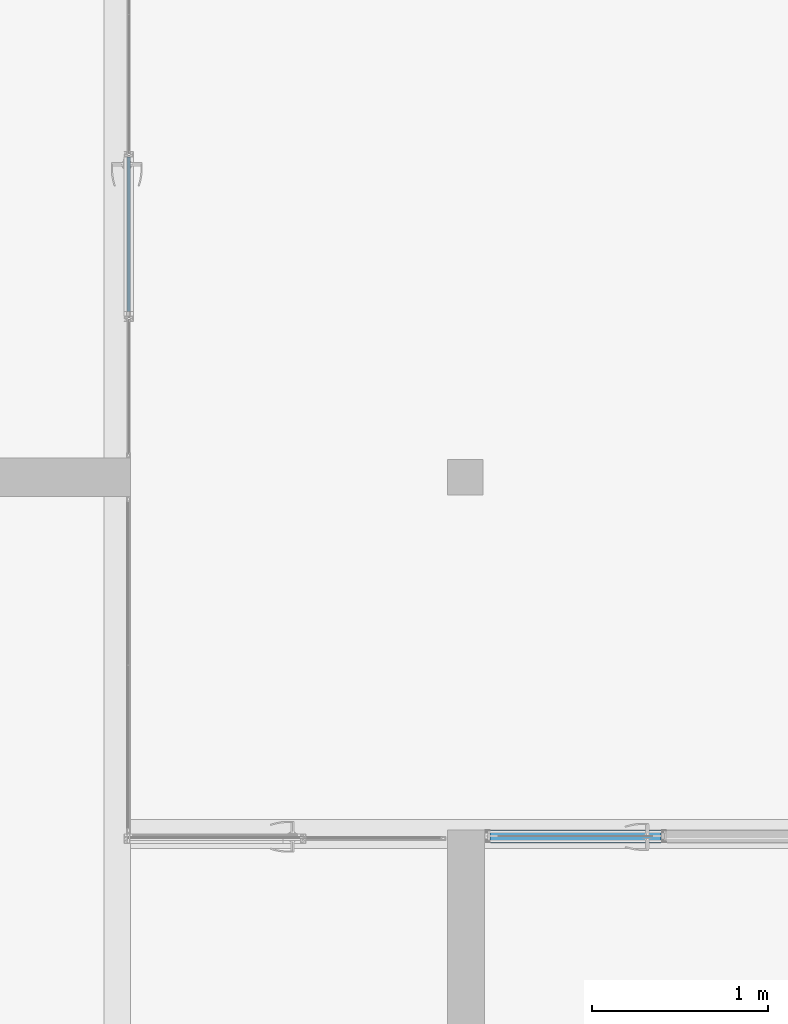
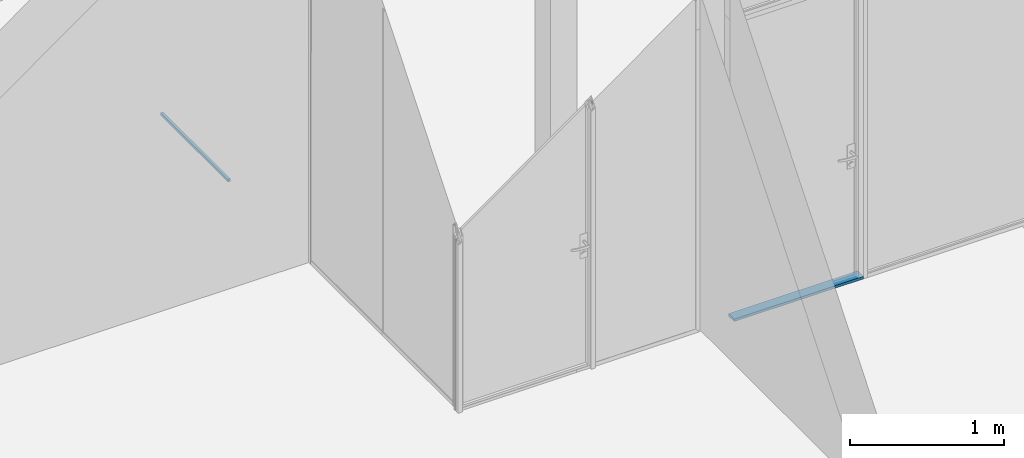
# One storey, part 16 of 387: 2 members, 2 elements without a shape of their own.
"""IFC2X3 building model written with IfcOpenShell, lengths in millimetres."""

import ifcopenshell
import ifcopenshell.guid

model = None  # the IFC model being written
_history = None  # IfcOwnerHistory: only IFC2X3 demands one
_inside = {}  # id of a spatial element -> (the spatial element, [elements in it])
_under = {}  # id of a project, library or spatial element -> (it, [spatial elements below it])
_declared = {}  # id of a project -> (the project, [libraries it declares])
_typed = {}  # id of a type object -> (the type object, [elements of that type])
_made_of = {}  # id of a material, layer set ... -> (it, [elements and type objects made of it])


def new_model(schema):
    """Start an empty IFC model of exactly this schema.

    Asked for "IFC4X3", IfcOpenShell would pick the latest addendum, in which some entities
    have other attributes; the version numbers below select the first issue.
    IFC2X3 requires an IfcOwnerHistory on every rooted entity: one is made here for all.
    """
    global model, _history
    if schema == "IFC4X3":
        model = ifcopenshell.file(schema_version=(4, 3, 0, 0))
    else:
        model = ifcopenshell.file(schema=schema)
    _inside.clear()
    _under.clear()
    _declared.clear()
    _typed.clear()
    _made_of.clear()
    _history = None
    if model.schema == "IFC2X3":
        org = make("IfcOrganization", Name="unknown")
        user = make(
            "IfcPersonAndOrganization",
            ThePerson=make("IfcPerson", FamilyName="unknown"),
            TheOrganization=org,
        )
        app = make(
            "IfcApplication",
            ApplicationDeveloper=org,
            Version="unknown",
            ApplicationFullName="unknown",
            ApplicationIdentifier="unknown",
        )
        _history = make(
            "IfcOwnerHistory",
            OwningUser=user,
            OwningApplication=app,
            ChangeAction="ADDED",
            CreationDate=0,
        )
    return model


def make(cls, **values):
    """One entity of the class cls with the attributes given. An attribute that is None is left unset."""
    return model.create_entity(
        cls, **{name: value for name, value in values.items() if value is not None}
    )


def entity(cls, *values):
    """Any entity or typed value of the class cls, its attributes in the order of the schema. None: left unset."""
    e = model.create_entity(cls)
    for i, value in enumerate(values):
        if value is not None:
            e[i] = value
    return e


def rooted(cls, **values):
    """An entity with a GlobalId (a new one), such as an element, a storey or a relation."""
    return make(cls, GlobalId=ifcopenshell.guid.new(), OwnerHistory=_history, **values)


def si_unit(unit_type, name, prefix=None):
    """IfcSIUnit, for example si_unit("LENGTHUNIT", "METRE", prefix="MILLI")."""
    return make("IfcSIUnit", UnitType=unit_type, Prefix=prefix, Name=name)


def converted_unit(unit_type, name, factor, base, dimensions=None, offset=None):
    """IfcConversionBasedUnit, such as the inch: factor (a typed value) times the base unit."""
    return make(
        "IfcConversionBasedUnit"
        if offset is None
        else "IfcConversionBasedUnitWithOffset",
        ConversionOffset=offset,
        Dimensions=None
        if dimensions is None
        else entity("IfcDimensionalExponents", *dimensions),
        UnitType=unit_type,
        Name=name,
        ConversionFactor=make(
            "IfcMeasureWithUnit", ValueComponent=factor, UnitComponent=base
        ),
    )


def derived_unit(unit_type, elements):
    """IfcDerivedUnit: a product of units, each with its exponent."""
    return make(
        "IfcDerivedUnit",
        Elements=[
            make("IfcDerivedUnitElement", Unit=unit, Exponent=power)
            for unit, power in elements
        ],
        UnitType=unit_type,
    )


def money_unit(currency):
    """IfcMonetaryUnit."""
    return make("IfcMonetaryUnit", Currency=currency)


def assignment(units):
    """IfcUnitAssignment: the units of a project."""
    return None if units is None else make("IfcUnitAssignment", Units=units)


def point(xyz):
    """IfcCartesianPoint."""
    return None if xyz is None else make("IfcCartesianPoint", Coordinates=xyz)


def direction(xyz):
    """IfcDirection."""
    return None if xyz is None else make("IfcDirection", DirectionRatios=xyz)


def frame(location, z_axis=None, x_axis=None):
    """IfcAxis2Placement3D, a coordinate frame: its origin and axes. An axis left out is left unset."""
    return make(
        "IfcAxis2Placement3D",
        Location=point(location),
        Axis=direction(z_axis),
        RefDirection=direction(x_axis),
    )


def origin_with_axes():
    """The frame at (0, 0, 0) with the z axis (0, 0, 1) and the x axis (1, 0, 0) written out."""
    return frame((0.0, 0.0, 0.0), z_axis=(0.0, 0.0, 1.0), x_axis=(1.0, 0.0, 0.0))


def place(relative_to, where):
    """IfcLocalPlacement: puts the frame where relative to a parent placement (None: the world)."""
    return make(
        "IfcLocalPlacement", PlacementRelTo=relative_to, RelativePlacement=where
    )


def context(
    kind, dimensions, precision=None, world=None, true_north=None, identifier=None
):
    """IfcGeometricRepresentationContext, for example the 3D "Model" context."""
    return make(
        "IfcGeometricRepresentationContext",
        ContextIdentifier=identifier,
        ContextType=kind,
        CoordinateSpaceDimension=dimensions,
        Precision=precision,
        WorldCoordinateSystem=world,
        TrueNorth=true_north,
    )


def subcontext(parent, identifier, kind, view, scale=None):
    """IfcGeometricRepresentationSubContext, for example "Body" below "Model"."""
    return make(
        "IfcGeometricRepresentationSubContext",
        ContextIdentifier=identifier,
        ContextType=kind,
        ParentContext=parent,
        TargetScale=scale,
        TargetView=view,
    )


def project(units=None, contexts=None):
    """IfcProject with its units and contexts."""
    return rooted(
        "IfcProject",
        Name="project",
        RepresentationContexts=contexts,
        UnitsInContext=assignment(units),
    )


def spatial(cls, under=None, at=None, **own):
    """A site, building, storey or space (cls), placed at a placement, below another one or the project."""
    s = rooted(cls, ObjectPlacement=at, **own)
    if under is not None:
        _under.setdefault(under.id(), (under, []))[1].append(s)
    return s


def polyline(points):
    """IfcPolyline through the points."""
    return make("IfcPolyline", Points=[point(p) for p in points])


def outline(outer, holes=None, kind="AREA"):
    """IfcArbitraryClosedProfileDef: a profile drawn as a closed curve; with holes, ...WithVoids."""
    if holes is None:
        return make("IfcArbitraryClosedProfileDef", ProfileType=kind, OuterCurve=outer)
    return make(
        "IfcArbitraryProfileDefWithVoids",
        ProfileType=kind,
        OuterCurve=outer,
        InnerCurves=holes,
    )


def extrude(swept, where, along, depth):
    """IfcExtrudedAreaSolid: the profile swept, set in the frame where, extruded along a direction by depth."""
    return make(
        "IfcExtrudedAreaSolid",
        SweptArea=swept,
        Position=where,
        ExtrudedDirection=direction(along),
        Depth=depth,
    )


def shape(context_of_items, identifier, shape_type, items):
    """IfcShapeRepresentation: the items that make up one representation, for example the "Body"."""
    return make(
        "IfcShapeRepresentation",
        ContextOfItems=context_of_items,
        RepresentationIdentifier=identifier,
        RepresentationType=shape_type,
        Items=items,
    )


def material(Name=None, Category=None):
    """IfcMaterial."""
    return make("IfcMaterial", Name=Name, Category=Category)


def made_of(thing, what):
    """Note that an element or type object is made of a material, layer set ...; save() writes the relation."""
    if what is not None:
        _made_of.setdefault(what.id(), (what, []))[1].append(thing)
    return thing


def type_object(cls, material=None, **own):
    """A type object (cls), such as IfcWallType, which elements share."""
    return made_of(rooted(cls, **own), material)


def element(
    cls,
    number,
    at=None,
    inside=None,
    cuts=None,
    type_object=None,
    material=None,
    context=None,
    identifier="Body",
    shape_type=None,
    held_by="IfcProductDefinitionShape",
    body=None,
    shapes=None,
    **own,
):
    """One element of the class cls, such as IfcWall. Its Tag is "e" and its number.

    at: its placement. inside: the storey or other place that contains it. cuts: it is an
    opening in that element (IfcRelVoidsElement). A single representation is given by context,
    identifier, shape_type and body (its items); several are given by shapes. held_by: the class
    of the entity that holds the representations. save() writes the other relations.
    """
    e = rooted(cls, Tag="e%d" % number, ObjectPlacement=at, **own)
    if body is not None:
        shapes = [shape(context, identifier, shape_type, body)]
    if shapes is not None:
        e.Representation = make(held_by, Representations=shapes)
    if inside is not None:
        _inside.setdefault(inside.id(), (inside, []))[1].append(e)
    if cuts is not None:
        rooted(
            "IfcRelVoidsElement", RelatingBuildingElement=cuts, RelatedOpeningElement=e
        )
    if type_object is not None:
        _typed.setdefault(type_object.id(), (type_object, []))[1].append(e)
    return made_of(e, material)


def aggregate(whole, parts):
    """IfcRelAggregates: a whole, such as a stair, and the parts it consists of."""
    return rooted("IfcRelAggregates", RelatingObject=whole, RelatedObjects=parts)


def save(model, path):
    """Write the relations noted so far, then the file.

    IfcRelAggregates (storeys below a building ...), IfcRelContainedInSpatialStructure (elements
    in a storey), IfcRelDefinesByType, IfcRelAssociatesMaterial and IfcRelDeclares: one each for
    every whole, place, type object, material and project.
    """
    for whole, parts in _under.values():
        aggregate(whole, parts)
    for where, things in _inside.values():
        rooted(
            "IfcRelContainedInSpatialStructure",
            RelatedElements=things,
            RelatingStructure=where,
        )
    for kind, things in _typed.values():
        rooted("IfcRelDefinesByType", RelatedObjects=things, RelatingType=kind)
    for what, things in _made_of.values():
        rooted("IfcRelAssociatesMaterial", RelatedObjects=things, RelatingMaterial=what)
    for by, libraries in _declared.values():
        rooted("IfcRelDeclares", RelatingContext=by, RelatedDefinitions=libraries)
    model.write(path)


model = new_model("IFC2X3")

# Units and contexts
model_context = context("Model", 3, precision=0.01, world=origin_with_axes(), true_north=direction((0.0, 1.0)))
body_context = subcontext(model_context, "Body", "Model", "MODEL_VIEW")
ifc_project = project(units=[si_unit("LENGTHUNIT", "METRE", prefix="MILLI"), si_unit("AREAUNIT", "SQUARE_METRE"), si_unit("VOLUMEUNIT", "CUBIC_METRE"), converted_unit("PLANEANGLEUNIT", "DEGREE", entity("IfcPlaneAngleMeasure", 0.0174532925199), si_unit("PLANEANGLEUNIT", "RADIAN"), dimensions=[0, 0, 0, 0, 0, 0, 0]), si_unit("SOLIDANGLEUNIT", "STERADIAN"), money_unit("EUR"), converted_unit("TIMEUNIT", "Year", entity("IfcTimeMeasure", 31556926.0), si_unit("TIMEUNIT", "SECOND"), dimensions=[0, 0, 1, 0, 0, 0, 0]), si_unit("MASSUNIT", "GRAM", prefix="KILO"), si_unit("THERMODYNAMICTEMPERATUREUNIT", "DEGREE_CELSIUS"), si_unit("LUMINOUSINTENSITYUNIT", "LUMEN"), si_unit("ENERGYUNIT", "JOULE", prefix="MEGA"), derived_unit("THERMALCONDUCTANCEUNIT", [(si_unit("POWERUNIT", "WATT"), 1), (si_unit("LENGTHUNIT", "METRE"), -1), (si_unit("THERMODYNAMICTEMPERATUREUNIT", "KELVIN"), -1)]), derived_unit("SPECIFICHEATCAPACITYUNIT", [(si_unit("ENERGYUNIT", "JOULE"), 1), (si_unit("MASSUNIT", "GRAM", prefix="KILO"), -1), (si_unit("THERMODYNAMICTEMPERATUREUNIT", "KELVIN"), -1)]), derived_unit("MASSDENSITYUNIT", [(si_unit("MASSUNIT", "GRAM", prefix="KILO"), 1), (si_unit("VOLUMEUNIT", "CUBIC_METRE"), -1)])], contexts=[model_context])

# Site, building, storey
site_placement = place(None, origin_with_axes())
site = spatial("IfcSite", under=ifc_project, at=site_placement, Name="Puškini 31, Narva", CompositionType="ELEMENT")
building_placement = place(site_placement, origin_with_axes())
building = spatial("IfcBuilding", under=site, at=building_placement, Name="Narva Riigigümnaasium", CompositionType="ELEMENT")
storey_placement = place(building_placement, frame((0.0, 0.0, 2640.0), z_axis=(0.0, 0.0, 1.0), x_axis=(1.0, 0.0, 0.0)))
storey = spatial("IfcBuildingStorey", under=building, at=storey_placement, Name="2.korrus +2.64", CompositionType="ELEMENT", Elevation=2640.0)

# Curtain wall, member
curtain_wall_type = type_object("IfcCurtainWallType", Name="Curtain Wall Type", PredefinedType="NOTDEFINED")
curtain_wall_1_placement = place(storey_placement, frame((30909.9999988, 173462.997263, -3.04069565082e-05), z_axis=(0.0, 0.0, 1.0), x_axis=(1.0, 0.0, 0.0)))
curtain_wall_1 = element("IfcCurtainWall", 1, at=curtain_wall_1_placement, inside=storey, type_object=curtain_wall_type, Name="G-SKLF-13")
ifc_material_1 = material(Name="ET-04_Alumiinium")
member_type_1 = type_object("IfcMemberType", Name="20 x 74", PredefinedType="MULLION")
member_1_placement = place(curtain_wall_1_placement, frame((-500.0, 1.07434061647e-08, 0.0), z_axis=(1.0, 0.0, 0.0), x_axis=(0.0, 0.0, 1.0)))
member_1 = element("IfcMember", 2, at=member_1_placement, type_object=member_type_1, material=ifc_material_1, Name="G-SKLF-13-raam", ObjectType="MULLION", context=body_context, shape_type="SweptSolid", body=[
    extrude(outline(polyline([(-37.0, -20.0), (37.0, -20.0), (37.0, 0.0), (-37.0, 0.0), (-37.0, -20.0)])), frame((0.0, 0.0, 30.0000193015), z_axis=(0.0, 0.0, 1.0), x_axis=(0.0, 1.0, 0.0)), (0.0, 0.0, 1.0), 969.999980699),
])
aggregate(curtain_wall_1, [member_1])

curtain_wall_2_placement = place(storey_placement, frame((28390.0000002, 176724.161139, -5.42380846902e-05), z_axis=(0.0, 0.0, 1.0), x_axis=(1.0, 0.0, 0.0)))
curtain_wall_2 = element("IfcCurtainWall", 3, at=curtain_wall_2_placement, inside=storey, type_object=curtain_wall_type, Name="G-SKLF-12")
ifc_material_2 = material(Name="Alumiiniumprofiil")
member_type_2 = type_object("IfcMemberType", Name="20 x 20", PredefinedType="MULLION")
member_2_placement = place(curtain_wall_2_placement, frame((-9.13757958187e-09, 591.810892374, 0.0), z_axis=(0.0, -1.0, 0.0), x_axis=(0.0, 0.0, 1.0)))
member_2 = element("IfcMember", 4, at=member_2_placement, type_object=member_type_2, material=ifc_material_2, Name="G-SKLF-12-raam", ObjectType="MULLION", context=body_context, shape_type="SweptSolid", body=[
    extrude(outline(polyline([(10.0000000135, -20.0), (10.0000000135, 0.0), (-9.99999998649, 0.0), (-9.99999998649, -20.0), (10.0000000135, -20.0)])), frame((0.0, 0.0, -1.42108547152e-10), z_axis=(0.0, 0.0, 1.0), x_axis=(0.0, 1.0, 0.0)), (0.0, 0.0, 1.0), 875.432677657),
])
aggregate(curtain_wall_2, [member_2])

save(model, "model.ifc")
